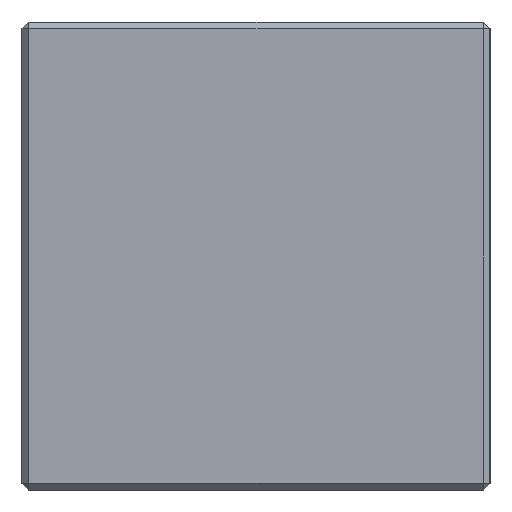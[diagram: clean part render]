
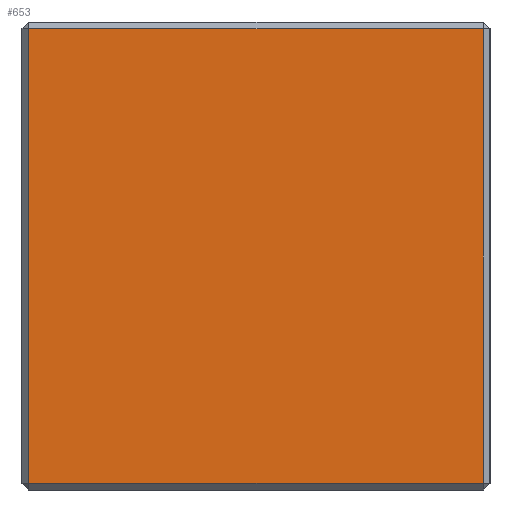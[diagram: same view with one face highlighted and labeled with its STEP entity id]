
A CAD part, left-side view. The second image highlights one B-rep face of the part: STEP entity #653.
In plain terms, the highlighted planar face has unit normal (-1, 0, 0).
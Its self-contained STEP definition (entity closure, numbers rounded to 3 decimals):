
#52 = VECTOR ( 'NONE', #1283, 1000. ) ;
#70 = EDGE_LOOP ( 'NONE', ( #1485, #1424, #2199, #410 ) ) ;
#163 = CARTESIAN_POINT ( 'NONE',  ( -50., 35., -34. ) ) ;
#199 = FACE_OUTER_BOUND ( 'NONE', #70, .T. ) ;
#235 = CARTESIAN_POINT ( 'NONE',  ( -50., 34., 34. ) ) ;
#395 = CARTESIAN_POINT ( 'NONE',  ( -50., 35., 35. ) ) ;
#410 = ORIENTED_EDGE ( 'NONE', *, *, #1516, .T. ) ;
#607 = DIRECTION ( 'NONE',  ( 1., 0., 0. ) ) ;
#640 = DIRECTION ( 'NONE',  ( 0., 0., 1. ) ) ;
#653 = ADVANCED_FACE ( 'NONE', ( #199 ), #802, .F. ) ;
#697 = DIRECTION ( 'NONE',  ( 0., 1., 0. ) ) ;
#707 = AXIS2_PLACEMENT_3D ( 'NONE', #395, #607, #697 ) ;
#739 = VECTOR ( 'NONE', #640, 1000. ) ;
#802 = PLANE ( 'NONE',  #707 ) ;
#903 = CARTESIAN_POINT ( 'NONE',  ( -50., -34., 34. ) ) ;
#1058 = VERTEX_POINT ( 'NONE', #903 ) ;
#1112 = VECTOR ( 'NONE', #1407, 1000. ) ;
#1168 = CARTESIAN_POINT ( 'NONE',  ( -50., -34., 35. ) ) ;
#1205 = VECTOR ( 'NONE', #2591, 1000. ) ;
#1232 = VERTEX_POINT ( 'NONE', #2404 ) ;
#1276 = VERTEX_POINT ( 'NONE', #235 ) ;
#1283 = DIRECTION ( 'NONE',  ( 0., 0., -1. ) ) ;
#1294 = EDGE_CURVE ( 'NONE', #1276, #1232, #2290, .T. ) ;
#1407 = DIRECTION ( 'NONE',  ( 0., -1., 0. ) ) ;
#1424 = ORIENTED_EDGE ( 'NONE', *, *, #1884, .T. ) ;
#1434 = CARTESIAN_POINT ( 'NONE',  ( -50., 34., 35. ) ) ;
#1485 = ORIENTED_EDGE ( 'NONE', *, *, #1294, .T. ) ;
#1516 = EDGE_CURVE ( 'NONE', #1058, #1276, #1580, .T. ) ;
#1580 = LINE ( 'NONE', #1952, #1205 ) ;
#1884 = EDGE_CURVE ( 'NONE', #1232, #2023, #1977, .T. ) ;
#1952 = CARTESIAN_POINT ( 'NONE',  ( -50., 35., 34. ) ) ;
#1977 = LINE ( 'NONE', #163, #1112 ) ;
#2023 = VERTEX_POINT ( 'NONE', #2067 ) ;
#2067 = CARTESIAN_POINT ( 'NONE',  ( -50., -34., -34. ) ) ;
#2154 = EDGE_CURVE ( 'NONE', #2023, #1058, #2173, .T. ) ;
#2173 = LINE ( 'NONE', #1168, #739 ) ;
#2199 = ORIENTED_EDGE ( 'NONE', *, *, #2154, .T. ) ;
#2290 = LINE ( 'NONE', #1434, #52 ) ;
#2404 = CARTESIAN_POINT ( 'NONE',  ( -50., 34., -34. ) ) ;
#2591 = DIRECTION ( 'NONE',  ( 0., 1., 0. ) ) ;
